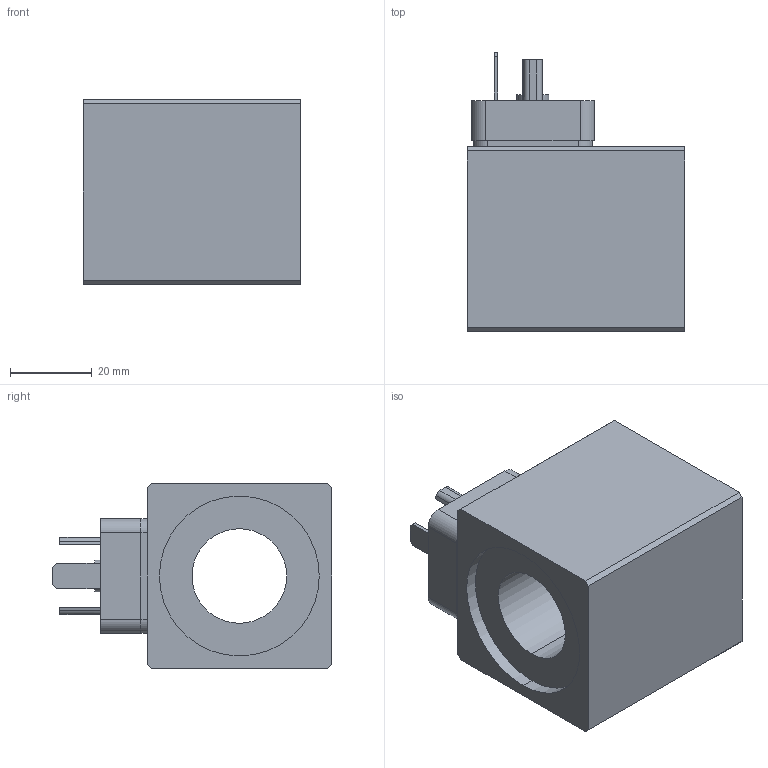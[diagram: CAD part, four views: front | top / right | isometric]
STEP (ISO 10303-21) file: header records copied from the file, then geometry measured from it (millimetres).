
FILE_DESCRIPTION (( 'STEP AP214' ), '1' );
FILE_NAME ('MDS45_23x50.STEP', '2014-04-03T09:38:03', ( '' ), ( '' ), 'SwSTEP 2.0', 'SolidWorks 2012', '' );
FILE_SCHEMA (( 'AUTOMOTIVE_DESIGN' ));
Length unit declared in the file: millimetre
Products named in the file (1): MDS45_23x50
Bounding box: 53 x 68.1 x 45 mm (x, y, z)
Volume: 88576.3 mm3; surface area: 20547.1 mm2
Topology: 1 solids, 1 shells, 182 faces, 527 edges, 343 vertices
Faces by surface type: plane 139, cylinder 43
Entity records: 6989 total; most frequent: CARTESIAN_POINT 1056, ORIENTED_EDGE 1054, DIRECTION 986, EDGE_CURVE 527, VECTOR 432, LINE 432, VERTEX_POINT 343, AXIS2_PLACEMENT_3D 277
